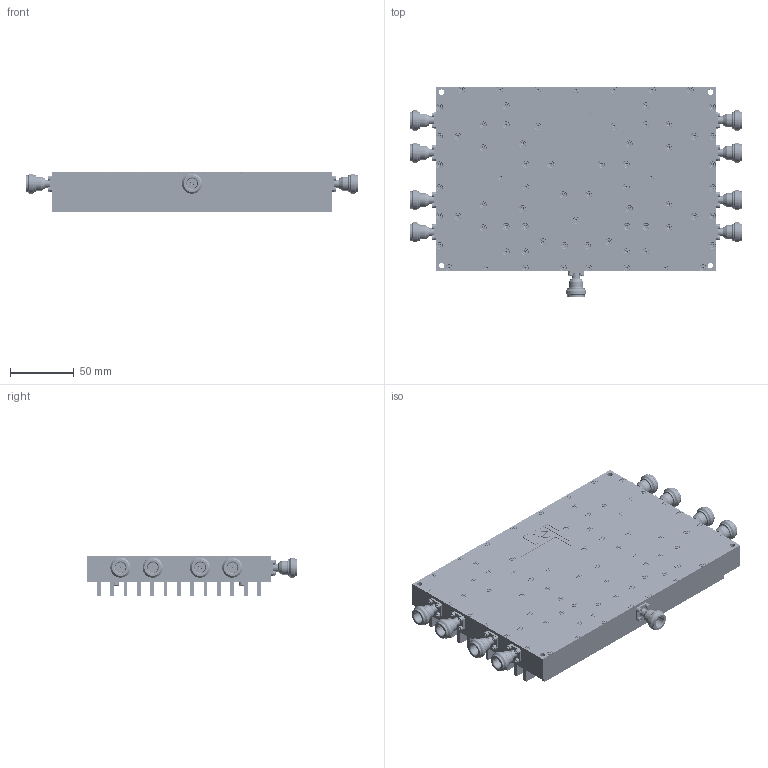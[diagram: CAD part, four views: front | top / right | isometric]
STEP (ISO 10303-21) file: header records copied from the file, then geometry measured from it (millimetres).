
FILE_DESCRIPTION(/* description */ ('Unknown'),/* implementation_level */ '2;1');
FILE_NAME(/* name */ 'DETI_MICROWAVE_IN-PHASE_HIGH_POWER_COMBINER_011123_STEP',/* time_stamp */ '2021-06-17T17:09:03+02:00',/* author */ ('ALG'),/* organization */ ('DETI'),/* preprocessor_version */ 'ST-DEVELOPER v16.7',/* originating_system */ 'Solid Edge',/* authorisation */ 'Unknown');
FILE_SCHEMA (('AUTOMOTIVE_DESIGN {1 0 10303 214 3 1 1}'));
Products named in the file (1): 001 589 05 14 01 AI B2
Bounding box: 261.4 x 165.7 x 31 mm (x, y, z)
Volume: 656791.6 mm3; surface area: 232660.6 mm2
Topology: 1 solids, 187 shells, 4864 faces, 12468 edges, 8289 vertices
Faces by surface type: plane 3349, cylinder 714, cone 555, torus 243, bspline 3
Full cylindrical faces by diameter (mm): 1 x18, 1.275 x9, 1.567 x73, 1.633 x1, 1.754 x9, 2 x45, 2.013 x72, 2.1 x9, 2.459 x6, 2.5 x72, 2.7 x72, 2.9 x36, 3 x6, 3.03 x9, 3.5 x6, 3.8 x36, 4.06 x9, 4.3 x4, 4.7 x72, 5.5 x6, 6.3 x9, 7 x9, 10.9 x9, 13.5 x18, 15.84 x9
Entity records: 168011 total; most frequent: CARTESIAN_POINT 25022, DIRECTION 21767, ORIENTED_EDGE 20914, EDGE_CURVE 10457, VERTEX_POINT 7523, LINE 7497, VECTOR 7497, AXIS2_PLACEMENT_3D 7135
